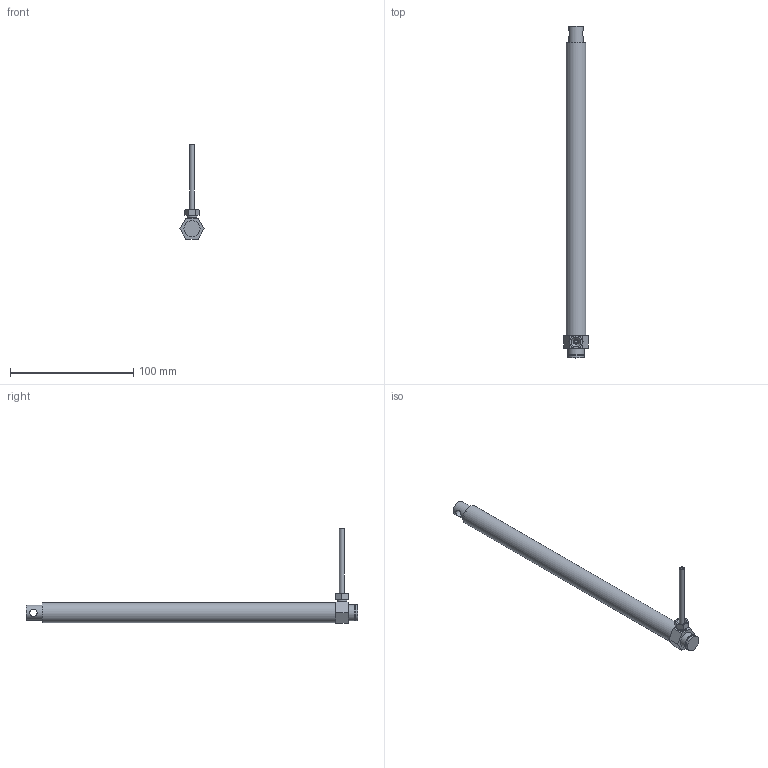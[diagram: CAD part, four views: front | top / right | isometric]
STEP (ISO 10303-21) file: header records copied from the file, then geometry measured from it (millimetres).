
FILE_DESCRIPTION(/* description */ ('Unknown'),/* implementation_level */ '2;1');
FILE_NAME(/* name */ '107.00022 Zylinder CB 1420_eingefahren',/* time_stamp */ '2018-03-26T08:52:18+02:00',/* author */ ('Unknown'),/* organization */ ('Unknown'),/* preprocessor_version */ 'ST-DEVELOPER v16.7',/* originating_system */ 'DEX',/* authorisation */ $);
FILE_SCHEMA (('AUTOMOTIVE_DESIGN {1 0 10303 214 3 1 1}'));
Length unit declared in the file: millimetre
Products named in the file (9): 107.00022; 121.00002; 142.00021; 125.00021; 115.00001_oa_0; 125.00033; 120.00002; 122.00001; 113.00002_70mm
Assembly tree (8 placements, depth 2):
  107.00022
    121.00002
    142.00021
    125.00021
    115.00001_oa_0
    125.00033
    120.00002
    122.00001
    113.00002_70mm
Bounding box: 19.63 x 269 x 76.5 mm (x, y, z)
Volume: 43047.6 mm3; surface area: 37407.8 mm2
Topology: 7 solids, 7 shells, 91 faces, 188 edges, 121 vertices
Faces by surface type: plane 37, cylinder 28, cone 22, torus 3, sphere 1
Full cylindrical faces by diameter (mm): 2.2 x1, 2.78 x1, 3.5 x1, 4 x1, 4.1 x1, 4.2 x1, 6 x1, 6.917 x2, 7.763 x2, 8 x3, 8.1 x3, 9 x1, 12 x2, 12.5 x1, 13 x2, 13.9 x2, 14 x2, 16 x1
Entity records: 2733 total; most frequent: CARTESIAN_POINT 436, DIRECTION 380, ORIENTED_EDGE 248, AXIS2_PLACEMENT_3D 172, FACE_BOUND 164, EDGE_LOOP 162, EDGE_CURVE 124, VERTEX_POINT 108
